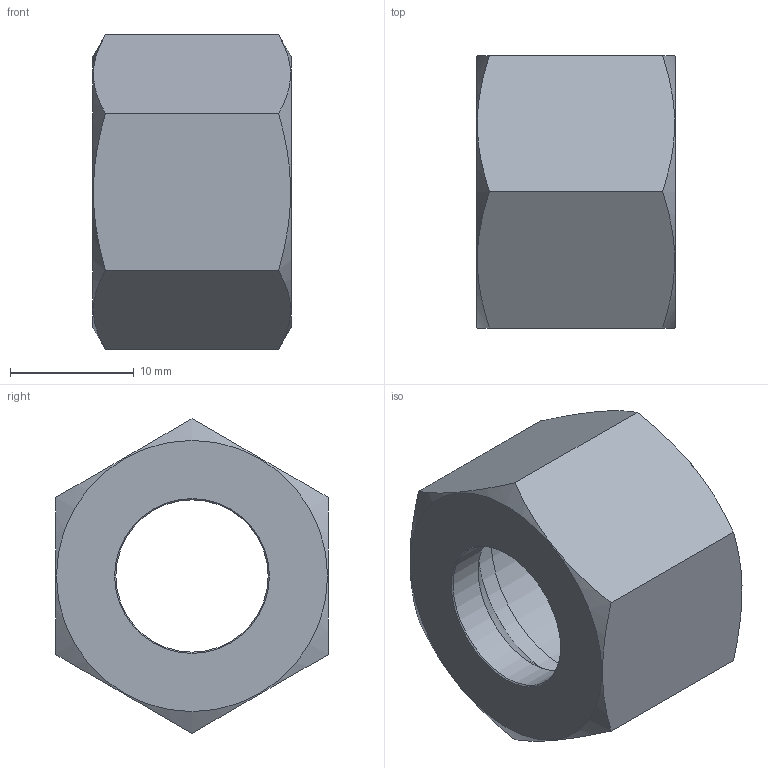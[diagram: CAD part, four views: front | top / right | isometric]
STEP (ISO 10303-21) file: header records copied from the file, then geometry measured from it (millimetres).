
FILE_DESCRIPTION( ( 'Unknown' ), '1' );
FILE_NAME( 'C:/Users/p.nanko/Desktop/3D SR/M12L.stp', 'Unknown', ( 'Peter Nanko' ), ( 'Armaturen Arndt' ), 'PSStep 14.0', 'Solid Edge ST4', ' ' );
FILE_SCHEMA( ( 'AUTOMOTIVE_DESIGN { 1 0 10303 214 1 1 1 1 }' ) );
Length unit declared in the file: millimetre
Products named in the file (1): 1
Bounding box: 16 x 22 x 25.4 mm (x, y, z)
Volume: 3654.1 mm3; surface area: 2464.8 mm2
Topology: 1 solids, 1 shells, 16 faces, 36 edges, 22 vertices
Faces by surface type: plane 8, cone 5, cylinder 3
Full cylindrical faces by diameter (mm): 12.3 x1, 16.376 x2
Entity records: 648 total; most frequent: CARTESIAN_POINT 197, DIRECTION 58, ORIENTED_EDGE 54, EDGE_CURVE 27, AXIS2_PLACEMENT_3D 26, EDGE_LOOP 26, VERTEX_POINT 21, FACE_OUTER_BOUND 19
